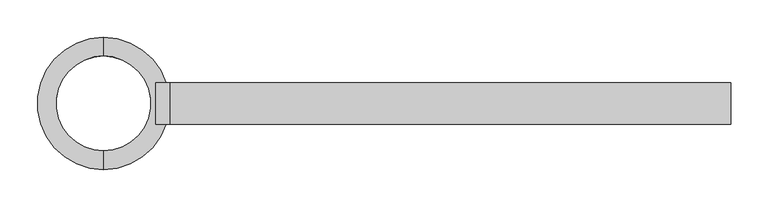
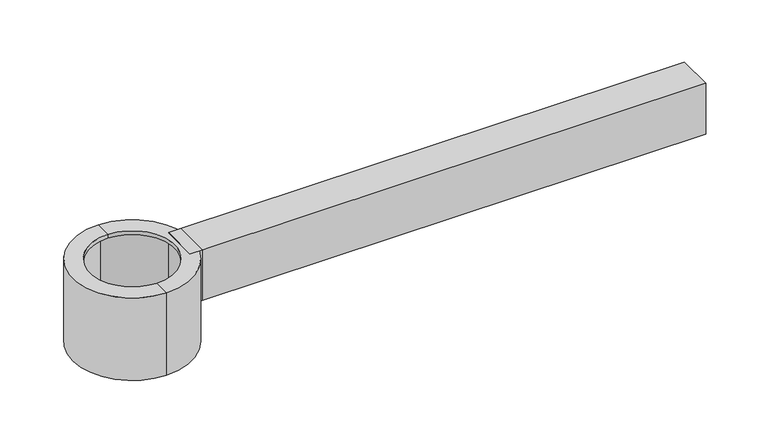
"""IFC4 building model written with IfcOpenShell, lengths in millimetres: light fixture geometry, CANDELA_CLF : 1XCLF04."""

from ifc_helpers import new_model, si_unit, frame, origin, origin_with_axes, place, context, project, spatial, polyline, circle_curve, outline, extrude, source, transform, mapped, element, save
from ifc_brep_helpers import plane_surface, cylinder_surface, revolved_surface, advanced_brep


def light_fixture_203ad779(model_context):
    return source(origin(), model_context, "Body", "SolidModel", [
        advanced_brep(
        [(0.0, 88.3, -50.0), (0.0, 88.3, 80.0), (0.0, 63.5, 80.0), (0.0, 63.5, 74.0), (0.0, 82.3, 74.0), (0.0, 82.3, -44.0), (0.0, 63.5, -44.0), (0.0, 63.5, -50.0), (0.0, -88.3, -50.0), (0.0, -63.5, -50.0), (0.0, -63.5, -44.0), (0.0, -82.3, -44.0), (0.0, -82.3, 74.0), (0.0, -63.5, 74.0), (0.0, -63.5, 80.0), (0.0, -88.3, 80.0)],
        [
            (0, 1),
            (1, 2),
            (2, 3),
            (3, 4),
            (4, 5),
            (5, 6),
            (6, 7),
            (7, 0),
            (8, 9),
            (9, 10),
            (10, 11),
            (11, 12),
            (12, 13),
            (13, 14),
            (14, 15),
            (15, 8),
            (8, 0, circle_curve(frame((0.0, 0.0, -50.0), z_axis=(0.0, 0.0, -1.0), x_axis=(0.0, 1.0, 0.0)), 88.3)),
            (7, 9, circle_curve(frame((0.0, 0.0, -50.0), z_axis=(0.0, 0.0, 1.0), x_axis=(0.0, 1.0, 0.0)), 63.5)),
            (6, 10, circle_curve(frame((0.0, 0.0, -44.0), z_axis=(0.0, 0.0, 1.0), x_axis=(0.0, 1.0, 0.0)), 63.5)),
            (5, 11, circle_curve(frame((0.0, 0.0, -44.0), z_axis=(0.0, 0.0, 1.0), x_axis=(0.0, 1.0, 0.0)), 82.3)),
            (4, 12, circle_curve(frame((0.0, 0.0, 74.0), z_axis=(0.0, 0.0, 1.0), x_axis=(0.0, 1.0, 0.0)), 82.3)),
            (3, 13, circle_curve(frame((0.0, 0.0, 74.0), z_axis=(0.0, 0.0, 1.0), x_axis=(0.0, 1.0, 0.0)), 63.5)),
            (2, 14, circle_curve(frame((0.0, 0.0, 80.0), z_axis=(0.0, 0.0, 1.0), x_axis=(0.0, 1.0, 0.0)), 63.5)),
            (1, 15, circle_curve(frame((0.0, 0.0, 80.0), z_axis=(0.0, 0.0, 1.0), x_axis=(0.0, 1.0, 0.0)), 88.3)),
        ],
        [
            plane_surface(frame((0.0, 0.0, -520.9920377), z_axis=(1.0, 0.0, 0.0), x_axis=(0.0, 1.0, 0.0))),
            plane_surface(frame((0.0, 0.0, -520.9920377), z_axis=(1.0, 0.0, 0.0), x_axis=(0.0, -1.0, 0.0))),
            plane_surface(frame((0.0, 0.0, -50.0), z_axis=(0.0, 0.0, -1.0), x_axis=(0.0, 1.0, 0.0))),
            revolved_surface(polyline([(0.0, 63.5, -50.0), (0.0, 63.5, -44.0)]), (0.0, 0.0, -520.9920377), (0.0, 0.0, -1.0)),
            plane_surface(frame((0.0, 0.0, -44.0), z_axis=(0.0, 0.0, 1.0), x_axis=(0.0, 1.0, 0.0))),
            revolved_surface(polyline([(0.0, 82.3, -44.0), (0.0, 82.3, 74.0)]), (0.0, 0.0, -520.9920377), (0.0, 0.0, -1.0)),
            plane_surface(frame((0.0, 0.0, 74.0), z_axis=(0.0, 0.0, -1.0), x_axis=(0.0, 1.0, 0.0))),
            revolved_surface(polyline([(0.0, 63.5, 74.0), (0.0, 63.5, 80.0)]), (0.0, 0.0, -520.9920377), (0.0, 0.0, -1.0)),
            plane_surface(frame((0.0, 0.0, 80.0), z_axis=(0.0, 0.0, 1.0), x_axis=(0.0, 1.0, 0.0))),
            cylinder_surface(frame((0.0, 0.0, -520.9920377), z_axis=(0.0, 0.0, -1.0), x_axis=(0.0, 1.0, 0.0)), 88.3),
        ],
        [
            (0, [[1, 2, 3, 4, 5, 6, 7, 8]]),
            (1, [[9, 10, 11, 12, 13, 14, 15, 16]]),
            (2, [[-9, 17, -8, 18]]),
            (3, [[-10, -18, -7, 19]]),
            (4, [[-11, -19, -6, 20]]),
            (5, [[-12, -20, -5, 21]]),
            (6, [[-13, -21, -4, 22]]),
            (7, [[-14, -22, -3, 23]]),
            (8, [[-15, -23, -2, 24]]),
            (9, [[-16, -24, -1, -17]]),
        ],
    ),
        extrude(outline(polyline([(88.3, -27.5), (69.9764576, -27.5), (69.9764576, 27.5), (88.3, 27.5), (88.3, -27.5)])), origin_with_axes(), (0.0, 0.0, 1.0), 80.0),
        advanced_brep(
        [(0.0, 88.3, -50.0), (0.0, 63.5, -50.0), (0.0, 63.5, -44.0), (0.0, 82.3, -44.0), (0.0, 82.3, 74.0), (0.0, 63.5, 74.0), (0.0, 63.5, 80.0), (0.0, 88.3, 80.0), (0.0, -88.3, -50.0), (0.0, -88.3, 80.0), (0.0, -63.5, 80.0), (0.0, -63.5, 74.0), (0.0, -82.3, 74.0), (0.0, -82.3, -44.0), (0.0, -63.5, -44.0), (0.0, -63.5, -50.0)],
        [
            (0, 1),
            (1, 2),
            (2, 3),
            (3, 4),
            (4, 5),
            (5, 6),
            (6, 7),
            (7, 0),
            (8, 9),
            (9, 10),
            (10, 11),
            (11, 12),
            (12, 13),
            (13, 14),
            (14, 15),
            (15, 8),
            (15, 1, circle_curve(frame((0.0, 0.0, -50.0), z_axis=(0.0, 0.0, 1.0), x_axis=(0.0, 1.0, 0.0)), 63.5)),
            (0, 8, circle_curve(frame((0.0, 0.0, -50.0), z_axis=(0.0, 0.0, -1.0), x_axis=(0.0, 1.0, 0.0)), 88.3)),
            (14, 2, circle_curve(frame((0.0, 0.0, -44.0), z_axis=(0.0, 0.0, 1.0), x_axis=(0.0, 1.0, 0.0)), 63.5)),
            (13, 3, circle_curve(frame((0.0, 0.0, -44.0), z_axis=(0.0, 0.0, 1.0), x_axis=(0.0, 1.0, 0.0)), 82.3)),
            (12, 4, circle_curve(frame((0.0, 0.0, 74.0), z_axis=(0.0, 0.0, 1.0), x_axis=(0.0, 1.0, 0.0)), 82.3)),
            (11, 5, circle_curve(frame((0.0, 0.0, 74.0), z_axis=(0.0, 0.0, 1.0), x_axis=(0.0, 1.0, 0.0)), 63.5)),
            (10, 6, circle_curve(frame((0.0, 0.0, 80.0), z_axis=(0.0, 0.0, 1.0), x_axis=(0.0, 1.0, 0.0)), 63.5)),
            (9, 7, circle_curve(frame((0.0, 0.0, 80.0), z_axis=(0.0, 0.0, 1.0), x_axis=(0.0, 1.0, 0.0)), 88.3)),
        ],
        [
            plane_surface(frame((0.0, 0.0, -520.9920377), z_axis=(-1.0, 0.0, 0.0), x_axis=(0.0, 1.0, 0.0))),
            plane_surface(frame((0.0, 0.0, -520.9920377), z_axis=(-1.0, 0.0, 0.0), x_axis=(0.0, -1.0, 0.0))),
            plane_surface(frame((0.0, 0.0, -50.0), z_axis=(0.0, 0.0, -1.0), x_axis=(0.0, 1.0, 0.0))),
            revolved_surface(polyline([(0.0, 63.5, -44.0), (0.0, 63.5, -50.0)]), (0.0, 0.0, -520.9920377), (0.0, 0.0, 1.0)),
            plane_surface(frame((0.0, 0.0, -44.0), z_axis=(0.0, 0.0, 1.0), x_axis=(0.0, 1.0, 0.0))),
            revolved_surface(polyline([(0.0, 82.3, 74.0), (0.0, 82.3, -44.0)]), (0.0, 0.0, -520.9920377), (0.0, 0.0, 1.0)),
            plane_surface(frame((0.0, 0.0, 74.0), z_axis=(0.0, 0.0, -1.0), x_axis=(0.0, 1.0, 0.0))),
            revolved_surface(polyline([(0.0, 63.5, 80.0), (0.0, 63.5, 74.0)]), (0.0, 0.0, -520.9920377), (0.0, 0.0, 1.0)),
            plane_surface(frame((0.0, 0.0, 80.0), z_axis=(0.0, 0.0, 1.0), x_axis=(0.0, 1.0, 0.0))),
            cylinder_surface(frame((0.0, 0.0, -520.9920377), z_axis=(0.0, 0.0, 1.0), x_axis=(0.0, 1.0, 0.0)), 88.3),
        ],
        [
            (0, [[1, 2, 3, 4, 5, 6, 7, 8]]),
            (1, [[9, 10, 11, 12, 13, 14, 15, 16]]),
            (2, [[-16, 17, -1, 18]]),
            (3, [[-15, 19, -2, -17]]),
            (4, [[-14, 20, -3, -19]]),
            (5, [[-13, 21, -4, -20]]),
            (6, [[-12, 22, -5, -21]]),
            (7, [[-11, 23, -6, -22]]),
            (8, [[-10, 24, -7, -23]]),
            (9, [[-9, -18, -8, -24]]),
        ],
    ),
        extrude(outline(polyline([(-27.5, 0.0), (-27.5, 80.0), (27.5, 80.0), (27.5, 0.0), (-27.5, 0.0)]), holes=[polyline([(21.5, 6.0), (21.5, 74.0), (-21.5, 74.0), (-21.5, 6.0), (21.5, 6.0)])]), frame((88.3, 0.0, 0.0), z_axis=(1.0, 0.0, 0.0), x_axis=(0.0, 1.0, 0.0)), (0.0, 0.0, 1.0), 750.0),
    ])


if __name__ == "__main__":
    model = new_model("IFC4")
    model_context = context("Model", 3, world=origin())
    ifc_project = project(units=[si_unit("LENGTHUNIT", "METRE", prefix="MILLI")], contexts=[model_context])
    site = spatial("IfcSite", under=ifc_project)
    building = spatial("IfcBuilding", under=site)
    placement = place(None, origin())
    light_fixture_shape = light_fixture_203ad779(model_context)
    element("IfcLightFixture", 1, ObjectType="CANDELA_CLF : 1XCLF04", at=placement, inside=building, context=model_context, shape_type="MappedRepresentation", body=[
        mapped(light_fixture_shape, transform((0.0, 0.0, 0.0), x_axis=(1.0, 0.0, 0.0), y_axis=(0.0, 1.0, 0.0), z_axis=(0.0, 0.0, 1.0))),
    ])
    save(model, "model.ifc")
